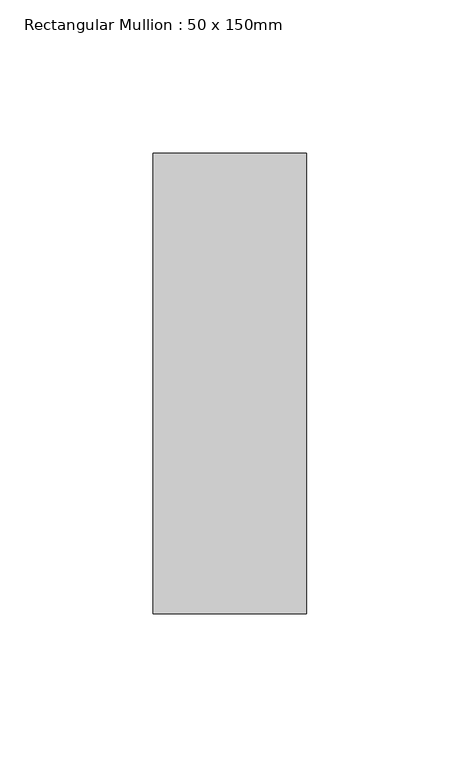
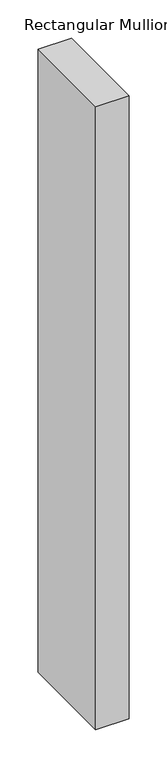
"""IFC4 building model written with IfcOpenShell, lengths in millimetres: member geometry, Rectangular Mullion : 50 x 150mm."""

from ifc_helpers import new_model, si_unit, frame, origin, place, context, project, spatial, polyline, outline, extrude, source, transform, mapped, element, save


def rectangular_mullion_50_x_150mm_477ca9b8(model_context):
    return source(origin(), model_context, "Body", "SweptSolid", [
        extrude(outline(polyline([(0.0, 75.0), (0.0, -75.0), (-50.0, -75.0), (-50.0, 75.0), (0.0, 75.0)])), frame((0.0, 0.0, -991.6666668), z_axis=(0.0, 0.0, 1.0), x_axis=(1.0, 0.0, 0.0)), (0.0, 0.0, 1.0), 991.6666668),
    ])


if __name__ == "__main__":
    model = new_model("IFC4")
    model_context = context("Model", 3, world=origin())
    ifc_project = project(units=[si_unit("LENGTHUNIT", "METRE", prefix="MILLI")], contexts=[model_context])
    site = spatial("IfcSite", under=ifc_project)
    building = spatial("IfcBuilding", under=site)
    placement = place(None, origin())
    rectangular_mullion_50_x_150mm_shape = rectangular_mullion_50_x_150mm_477ca9b8(model_context)
    element("IfcMember", 1, ObjectType="Rectangular Mullion : 50 x 150mm", at=placement, inside=building, context=model_context, shape_type="MappedRepresentation", body=[
        mapped(rectangular_mullion_50_x_150mm_shape, transform((0.0, 0.0, 0.0), x_axis=(1.0, 0.0, 0.0), y_axis=(0.0, 1.0, 0.0), z_axis=(0.0, 0.0, 1.0))),
    ])
    save(model, "model.ifc")
